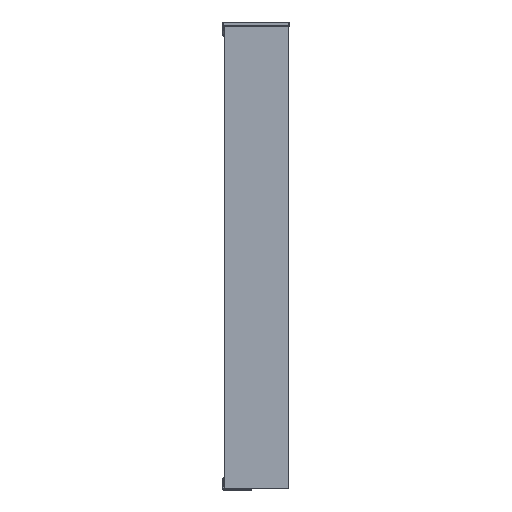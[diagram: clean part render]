
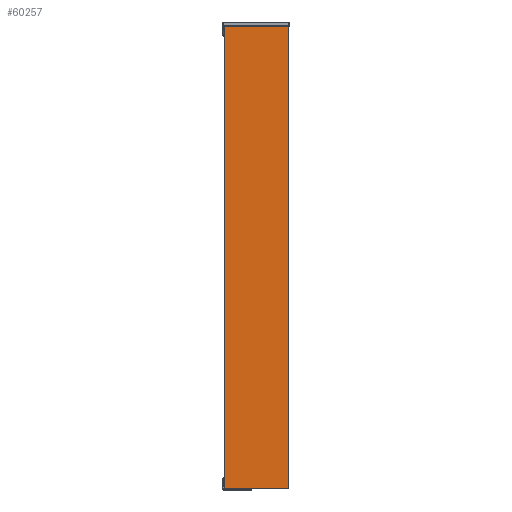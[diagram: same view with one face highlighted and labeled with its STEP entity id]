
A CAD part, left-side view. The second image highlights one B-rep face of the part: STEP entity #60257.
In plain terms, the highlighted planar face has unit normal (-1, 0, 0).
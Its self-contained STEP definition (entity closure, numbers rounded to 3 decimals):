
#2303 = VECTOR ( 'NONE', #46551, 1000. ) ;
#3752 = CARTESIAN_POINT ( 'NONE',  ( -0.2, 11., 496. ) ) ;
#7745 = EDGE_LOOP ( 'NONE', ( #60874, #75700, #12178, #54932 ) ) ;
#8565 = VERTEX_POINT ( 'NONE', #33331 ) ;
#8773 = LINE ( 'NONE', #50856, #25954 ) ;
#9636 = FACE_OUTER_BOUND ( 'NONE', #7745, .T. ) ;
#9712 = CARTESIAN_POINT ( 'NONE',  ( -0.2, 11.2, 496. ) ) ;
#10204 = VERTEX_POINT ( 'NONE', #23046 ) ;
#10312 = EDGE_CURVE ( 'NONE', #8565, #28294, #43447, .T. ) ;
#11221 = LINE ( 'NONE', #35587, #41690 ) ;
#12178 = ORIENTED_EDGE ( 'NONE', *, *, #10312, .F. ) ;
#19212 = CARTESIAN_POINT ( 'NONE',  ( -0.2, 79.8, 0. ) ) ;
#23046 = CARTESIAN_POINT ( 'NONE',  ( -0.2, 11.2, 0. ) ) ;
#23645 = EDGE_CURVE ( 'NONE', #59106, #10204, #8773, .T. ) ;
#25787 = VECTOR ( 'NONE', #72113, 1000. ) ;
#25954 = VECTOR ( 'NONE', #74798, 1000. ) ;
#28294 = VERTEX_POINT ( 'NONE', #9712 ) ;
#33331 = CARTESIAN_POINT ( 'NONE',  ( -0.2, 79.8, 496. ) ) ;
#35587 = CARTESIAN_POINT ( 'NONE',  ( -0.2, 79.8, 496. ) ) ;
#40289 = CARTESIAN_POINT ( 'NONE',  ( -0.2, 11.2, 496. ) ) ;
#41690 = VECTOR ( 'NONE', #52918, 1000. ) ;
#42283 = CARTESIAN_POINT ( 'NONE',  ( -0.2, 11., 496. ) ) ;
#42515 = EDGE_CURVE ( 'NONE', #8565, #59106, #11221, .T. ) ;
#43447 = LINE ( 'NONE', #42283, #25787 ) ;
#45809 = PLANE ( 'NONE',  #50097 ) ;
#46551 = DIRECTION ( 'NONE',  ( 0., 0., 1. ) ) ;
#50097 = AXIS2_PLACEMENT_3D ( 'NONE', #3752, #75124, #57455 ) ;
#50856 = CARTESIAN_POINT ( 'NONE',  ( -0.2, 11., 0. ) ) ;
#52918 = DIRECTION ( 'NONE',  ( 0., 0., -1. ) ) ;
#54932 = ORIENTED_EDGE ( 'NONE', *, *, #42515, .T. ) ;
#57455 = DIRECTION ( 'NONE',  ( 0., 0., -1. ) ) ;
#59106 = VERTEX_POINT ( 'NONE', #19212 ) ;
#60257 = ADVANCED_FACE ( 'NONE', ( #9636 ), #45809, .F. ) ;
#60874 = ORIENTED_EDGE ( 'NONE', *, *, #23645, .T. ) ;
#61252 = EDGE_CURVE ( 'NONE', #10204, #28294, #68944, .T. ) ;
#68944 = LINE ( 'NONE', #40289, #2303 ) ;
#72113 = DIRECTION ( 'NONE',  ( 0., -1., 0. ) ) ;
#74798 = DIRECTION ( 'NONE',  ( 0., -1., 0. ) ) ;
#75124 = DIRECTION ( 'NONE',  ( 1., 0., 0. ) ) ;
#75700 = ORIENTED_EDGE ( 'NONE', *, *, #61252, .T. ) ;
